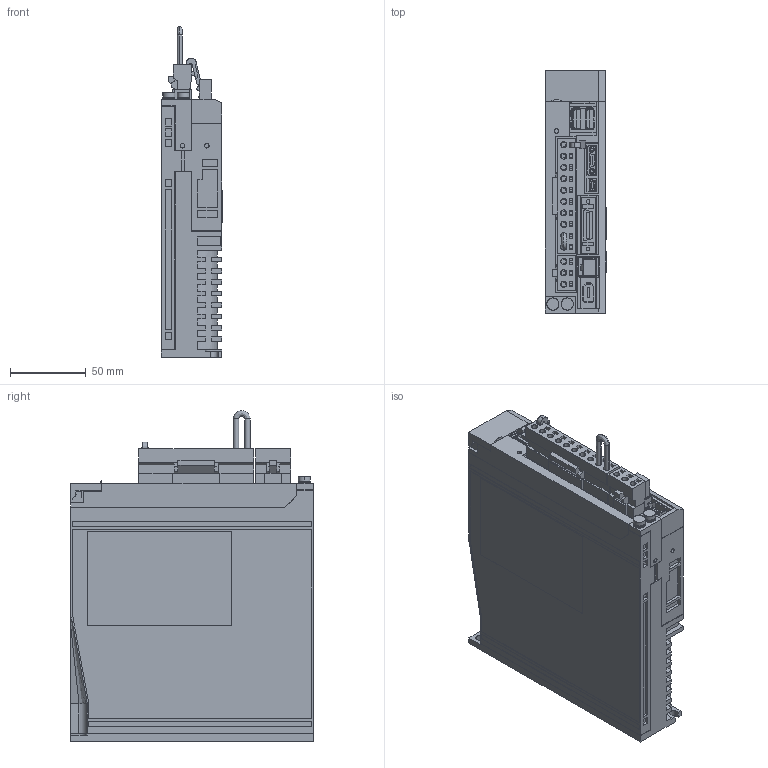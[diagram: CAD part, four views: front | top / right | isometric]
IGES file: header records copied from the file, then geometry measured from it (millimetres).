
Start section: SolidWorks IGES file using analytic representation for surfaces
Global section: file name: C:\YASKAWA\sgdv_2r8a1_a.IGS; native system: SolidWorks 2006 by SolidWorks Corporation; preprocessor: SolidWorks 2006 by SolidWorks Corporation; author: yamanouchi; date: 080617.172455; units: millimetre
Bounding box: 40.5 x 160 x 218 mm (x, y, z)
Surface area: 156958.9 mm2 (no closed solid volume)
Topology: 0 solids, 0 shells, 1908 faces, 14435 edges, 14435 vertices
Faces by surface type: bspline 1717, revolution 191
